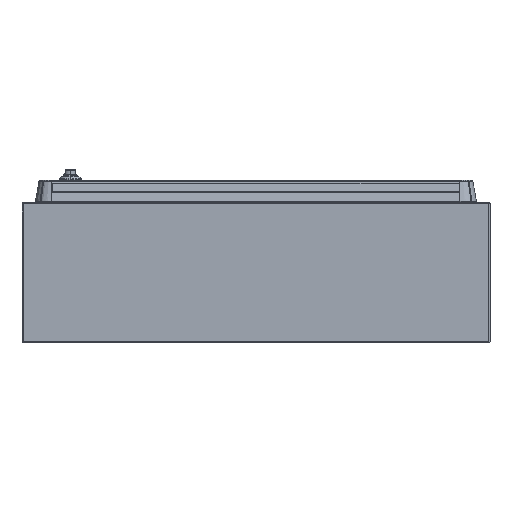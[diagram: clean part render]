
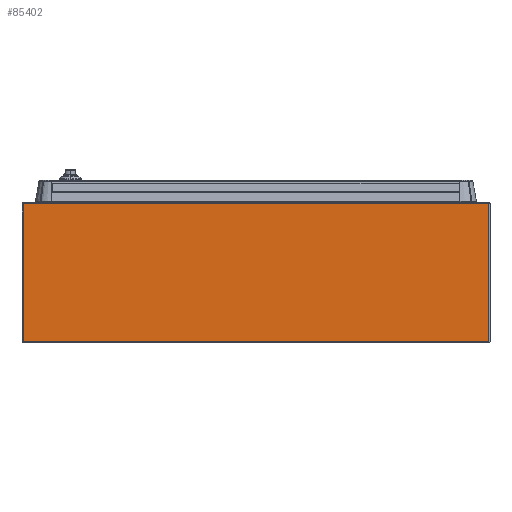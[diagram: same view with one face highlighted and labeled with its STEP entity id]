
A CAD part, front view. The second image highlights one B-rep face of the part: STEP entity #85402.
In plain terms, the highlighted planar face has unit normal (0, -1, 0).
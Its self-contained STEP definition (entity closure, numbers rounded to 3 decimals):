
#4974 = VERTEX_POINT ( 'NONE', #89235 ) ;
#7724 = VECTOR ( 'NONE', #14066, 1000. ) ;
#9153 = LINE ( 'NONE', #25261, #52447 ) ;
#10520 = ORIENTED_EDGE ( 'NONE', *, *, #85327, .T. ) ;
#13993 = CARTESIAN_POINT ( 'NONE',  ( 1983.307, -360.462, 178.4 ) ) ;
#14066 = DIRECTION ( 'NONE',  ( 1., 0., 0. ) ) ;
#20336 = CARTESIAN_POINT ( 'NONE',  ( 1386.307, -360.462, 1.6 ) ) ;
#20445 = DIRECTION ( 'NONE',  ( 1., 0., 0. ) ) ;
#20713 = EDGE_CURVE ( 'NONE', #4974, #99136, #34555, .T. ) ;
#20730 = LINE ( 'NONE', #52493, #29982 ) ;
#22091 = VERTEX_POINT ( 'NONE', #20336 ) ;
#22431 = EDGE_CURVE ( 'NONE', #99136, #54871, #20730, .T. ) ;
#24601 = ORIENTED_EDGE ( 'NONE', *, *, #40705, .T. ) ;
#25261 = CARTESIAN_POINT ( 'NONE',  ( 1386.307, -360.462, 0. ) ) ;
#28277 = CARTESIAN_POINT ( 'NONE',  ( 1386.307, -360.462, 178.4 ) ) ;
#29982 = VECTOR ( 'NONE', #77975, 1000. ) ;
#32046 = FACE_OUTER_BOUND ( 'NONE', #40433, .T. ) ;
#34555 = LINE ( 'NONE', #28277, #61490 ) ;
#40433 = EDGE_LOOP ( 'NONE', ( #71422, #10520, #24601, #48709 ) ) ;
#40705 = EDGE_CURVE ( 'NONE', #22091, #54871, #95716, .T. ) ;
#48709 = ORIENTED_EDGE ( 'NONE', *, *, #22431, .F. ) ;
#52447 = VECTOR ( 'NONE', #56513, 1000. ) ;
#52493 = CARTESIAN_POINT ( 'NONE',  ( 1983.307, -360.462, 0. ) ) ;
#54871 = VERTEX_POINT ( 'NONE', #56005 ) ;
#56005 = CARTESIAN_POINT ( 'NONE',  ( 1983.307, -360.462, 1.6 ) ) ;
#56513 = DIRECTION ( 'NONE',  ( 0., 0., -1. ) ) ;
#61490 = VECTOR ( 'NONE', #20445, 1000. ) ;
#67792 = CARTESIAN_POINT ( 'NONE',  ( 1386.307, -360.462, 0. ) ) ;
#71422 = ORIENTED_EDGE ( 'NONE', *, *, #20713, .F. ) ;
#77975 = DIRECTION ( 'NONE',  ( 0., 0., -1. ) ) ;
#82465 = AXIS2_PLACEMENT_3D ( 'NONE', #67792, #89257, #99497 ) ;
#85327 = EDGE_CURVE ( 'NONE', #4974, #22091, #9153, .T. ) ;
#85402 = ADVANCED_FACE ( 'NONE', ( #32046 ), #100510, .F. ) ;
#89235 = CARTESIAN_POINT ( 'NONE',  ( 1386.307, -360.462, 178.4 ) ) ;
#89257 = DIRECTION ( 'NONE',  ( 0., 1., 0. ) ) ;
#94712 = CARTESIAN_POINT ( 'NONE',  ( 1386.307, -360.462, 1.6 ) ) ;
#95716 = LINE ( 'NONE', #94712, #7724 ) ;
#99136 = VERTEX_POINT ( 'NONE', #13993 ) ;
#99497 = DIRECTION ( 'NONE',  ( 0., 0., 1. ) ) ;
#100510 = PLANE ( 'NONE',  #82465 ) ;
